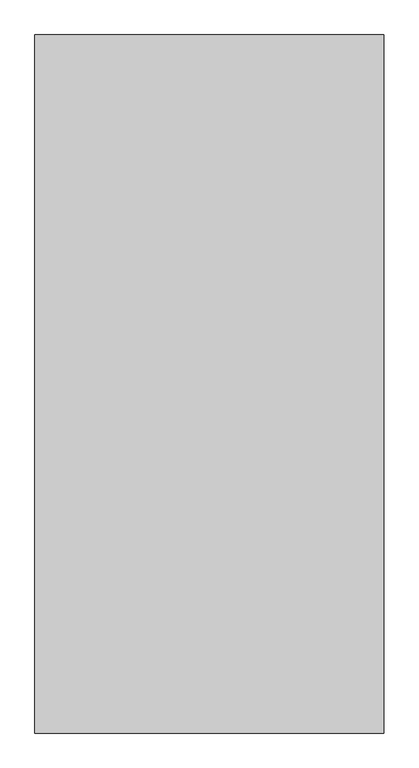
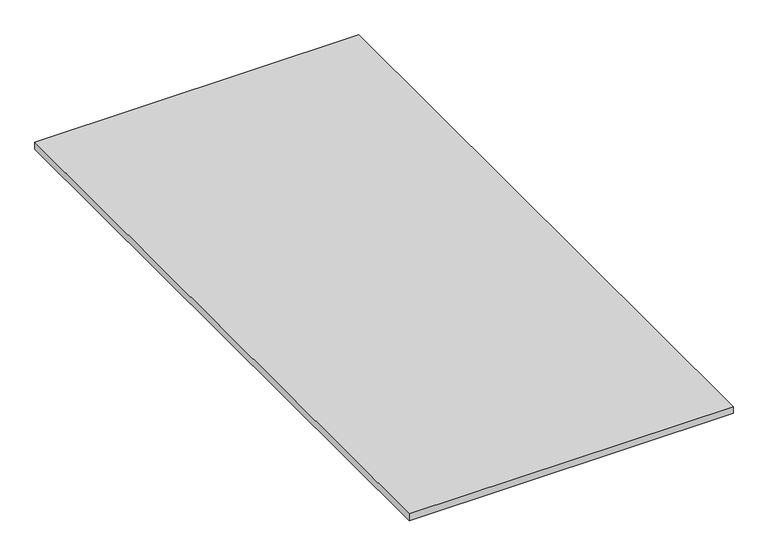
"""IFC4 building model written with IfcOpenShell, lengths in millimetres: proxy geometry, Base de duche17 : Base de duche."""

from ifc_helpers import new_model, si_unit, origin, origin_with_axes, place, context, project, spatial, polyline, outline, extrude, source, transform, mapped, element, save


def generic_models_60af4f02(model_context):
    return source(origin(), model_context, "Body", "SweptSolid", [
        extrude(outline(polyline([(33752.000777, 16442.1029258), (33752.000777, 14642.1029258), (32852.000777, 14642.1029258), (32852.000777, 16442.1029258), (33752.000777, 16442.1029258)])), origin_with_axes(), (0.0, 0.0, 1.0), 20.0),
    ])


if __name__ == "__main__":
    model = new_model("IFC4")
    model_context = context("Model", 3, world=origin())
    ifc_project = project(units=[si_unit("LENGTHUNIT", "METRE", prefix="MILLI")], contexts=[model_context])
    site = spatial("IfcSite", under=ifc_project)
    building = spatial("IfcBuilding", under=site)
    placement = place(None, origin())
    generic_models_shape = generic_models_60af4f02(model_context)
    element("IfcBuildingElementProxy", 1, Name="Base de duche17 : Base de duche", ObjectType="Base de duche17 : Base de duche", at=placement, inside=building, context=model_context, shape_type="MappedRepresentation", body=[
        mapped(generic_models_shape, transform((0.0, 0.0, 0.0), x_axis=(1.0, 0.0, 0.0), y_axis=(0.0, 1.0, 0.0), z_axis=(0.0, 0.0, 1.0))),
    ])
    save(model, "model.ifc")
